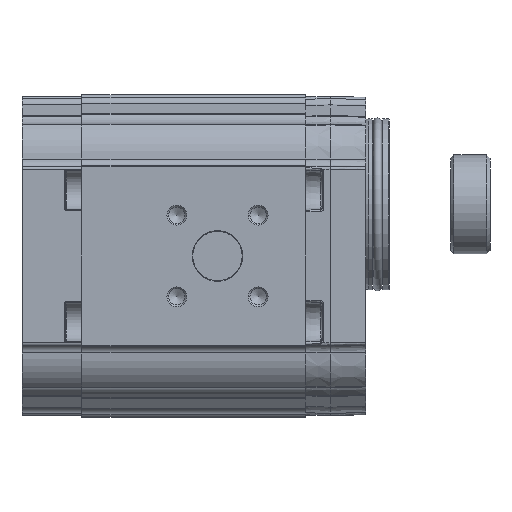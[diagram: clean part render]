
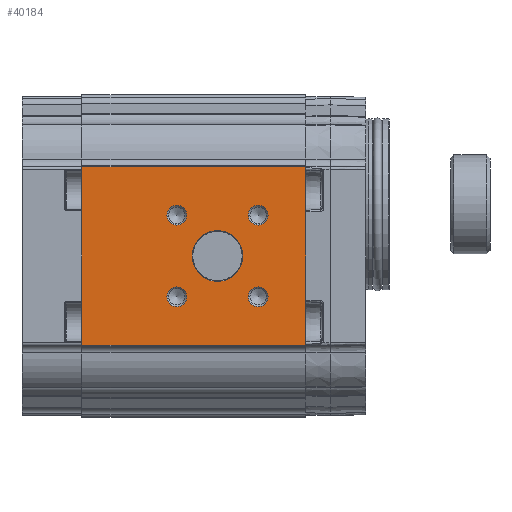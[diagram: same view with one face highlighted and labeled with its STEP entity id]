
A CAD part, left-side view. The second image highlights one B-rep face of the part: STEP entity #40184.
In plain terms, the highlighted planar face has unit normal (-1, 0, 0) as drawn and (1, 0, 0) by its records, which use the part's own axes.
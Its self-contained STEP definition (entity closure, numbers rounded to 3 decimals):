
#2321=LINE('',#68714,#4019);
#2333=LINE('',#68853,#4031);
#2350=LINE('',#68897,#4048);
#2351=LINE('',#68898,#4049);
#4019=VECTOR('',#49350,1000.);
#4031=VECTOR('',#49480,1000.);
#4048=VECTOR('',#49533,1000.);
#4049=VECTOR('',#49534,1000.);
#11228=ORIENTED_EDGE('',*,*,#16879,.T.);
#11229=ORIENTED_EDGE('',*,*,#16880,.T.);
#11230=ORIENTED_EDGE('',*,*,#16881,.T.);
#11231=ORIENTED_EDGE('',*,*,#16882,.T.);
#11232=ORIENTED_EDGE('',*,*,#16883,.T.);
#11233=ORIENTED_EDGE('',*,*,#16858,.F.);
#11234=ORIENTED_EDGE('',*,*,#16884,.F.);
#11235=ORIENTED_EDGE('',*,*,#16788,.T.);
#11236=ORIENTED_EDGE('',*,*,#16885,.T.);
#16788=EDGE_CURVE('',#19944,#19943,#2321,.T.);
#16858=EDGE_CURVE('',#20011,#20012,#2333,.T.);
#16879=EDGE_CURVE('',#20016,#20016,#21960,.F.);
#16880=EDGE_CURVE('',#20017,#20017,#21961,.F.);
#16881=EDGE_CURVE('',#20018,#20018,#21962,.F.);
#16882=EDGE_CURVE('',#20019,#20019,#21963,.F.);
#16883=EDGE_CURVE('',#20020,#20020,#21964,.F.);
#16884=EDGE_CURVE('',#19944,#20011,#2350,.T.);
#16885=EDGE_CURVE('',#19943,#20012,#2351,.T.);
#19943=VERTEX_POINT('',#68713);
#19944=VERTEX_POINT('',#68715);
#20011=VERTEX_POINT('',#68852);
#20012=VERTEX_POINT('',#68854);
#20016=VERTEX_POINT('',#68888);
#20017=VERTEX_POINT('',#68890);
#20018=VERTEX_POINT('',#68892);
#20019=VERTEX_POINT('',#68894);
#20020=VERTEX_POINT('',#68896);
#21960=CIRCLE('',#43019,7.7);
#21961=CIRCLE('',#43020,3.);
#21962=CIRCLE('',#43021,3.);
#21963=CIRCLE('',#43022,3.);
#21964=CIRCLE('',#43023,3.);
#23761=EDGE_LOOP('',(#11228));
#23762=EDGE_LOOP('',(#11229));
#23763=EDGE_LOOP('',(#11230));
#23764=EDGE_LOOP('',(#11231));
#23765=EDGE_LOOP('',(#11232));
#23766=EDGE_LOOP('',(#11233,#11234,#11235,#11236));
#25777=FACE_BOUND('',#23761,.T.);
#25778=FACE_BOUND('',#23762,.T.);
#25779=FACE_BOUND('',#23763,.T.);
#25780=FACE_BOUND('',#23764,.T.);
#25781=FACE_BOUND('',#23765,.T.);
#25782=FACE_BOUND('',#23766,.T.);
#26832=PLANE('',#43018);
#40184=ADVANCED_FACE('',(#25777,#25778,#25779,#25780,#25781,#25782),#26832,
 .T.);
#43018=AXIS2_PLACEMENT_3D('',#68886,#49521,#49522);
#43019=AXIS2_PLACEMENT_3D('',#68887,#49523,#49524);
#43020=AXIS2_PLACEMENT_3D('',#68889,#49525,#49526);
#43021=AXIS2_PLACEMENT_3D('',#68891,#49527,#49528);
#43022=AXIS2_PLACEMENT_3D('',#68893,#49529,#49530);
#43023=AXIS2_PLACEMENT_3D('',#68895,#49531,#49532);
#49350=DIRECTION('',(0.,0.,1.));
#49480=DIRECTION('',(0.,0.,1.));
#49521=DIRECTION('',(1.,0.,0.));
#49522=DIRECTION('',(0.,0.,-1.));
#49523=DIRECTION('',(1.,0.,0.));
#49524=DIRECTION('',(0.,0.,-1.));
#49525=DIRECTION('',(1.,0.,0.));
#49526=DIRECTION('',(0.,0.,-1.));
#49527=DIRECTION('',(1.,0.,0.));
#49528=DIRECTION('',(0.,0.,-1.));
#49529=DIRECTION('',(1.,0.,0.));
#49530=DIRECTION('',(0.,0.,-1.));
#49531=DIRECTION('',(1.,0.,0.));
#49532=DIRECTION('',(0.,0.,-1.));
#49533=DIRECTION('',(0.,-1.,0.));
#49534=DIRECTION('',(0.,-1.,0.));
#68713=CARTESIAN_POINT('',(43.,68.,27.048));
#68714=CARTESIAN_POINT('',(43.,68.,27.048));
#68715=CARTESIAN_POINT('',(43.,68.,-27.048));
#68852=CARTESIAN_POINT('',(43.,0.,-27.048));
#68853=CARTESIAN_POINT('',(43.,0.,27.048));
#68854=CARTESIAN_POINT('',(43.,0.,27.048));
#68886=CARTESIAN_POINT('',(43.,68.,27.048));
#68887=CARTESIAN_POINT('',(43.,26.8,0.));
#68888=CARTESIAN_POINT('',(43.,26.8,-7.7));
#68889=CARTESIAN_POINT('',(43.,39.174,-12.374));
#68890=CARTESIAN_POINT('',(43.,39.174,-15.374));
#68891=CARTESIAN_POINT('',(43.,39.174,12.374));
#68892=CARTESIAN_POINT('',(43.,39.174,9.374));
#68893=CARTESIAN_POINT('',(43.,14.426,12.374));
#68894=CARTESIAN_POINT('',(43.,14.426,9.374));
#68895=CARTESIAN_POINT('',(43.,14.426,-12.374));
#68896=CARTESIAN_POINT('',(43.,14.426,-15.374));
#68897=CARTESIAN_POINT('',(43.,68.,-27.048));
#68898=CARTESIAN_POINT('',(43.,68.,27.048));
